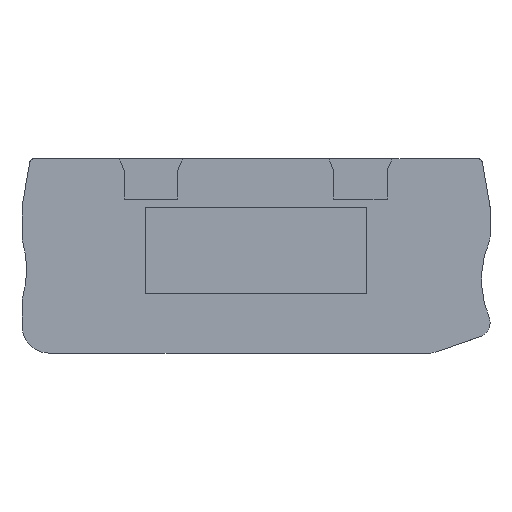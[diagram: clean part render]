
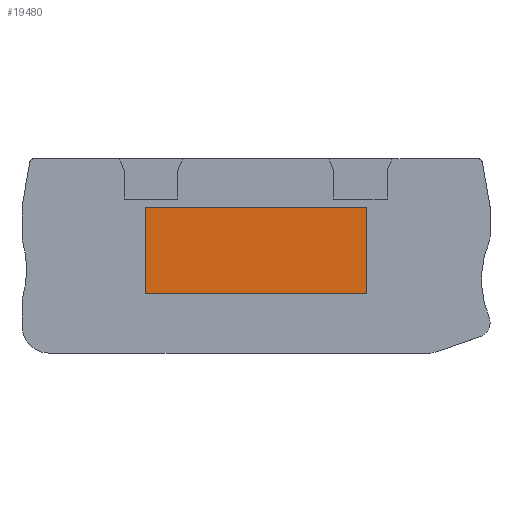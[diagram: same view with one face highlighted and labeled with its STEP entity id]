
A CAD part, top view. The second image highlights one B-rep face of the part: STEP entity #19480.
In plain terms, the highlighted planar face has unit normal (0, 0, 1).
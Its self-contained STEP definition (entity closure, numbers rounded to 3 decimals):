
#19090=CARTESIAN_POINT('',(10.314,-23.675,55.27));
#19100=DIRECTION('',(0.,0.,1.));
#19110=DIRECTION('',(1.,0.,0.));
#19120=AXIS2_PLACEMENT_3D('',#19090,#19100,#19110);
#19130=PLANE('',#19120);
#19140=CARTESIAN_POINT('',(-3.84,-12.13,55.27));
#19150=DIRECTION('',(0.,1.,0.));
#19160=VECTOR('',#19150,1.);
#19170=LINE('',#19140,#19160);
#19180=CARTESIAN_POINT('',(-3.84,-29.35,55.27));
#19190=VERTEX_POINT('',#19180);
#19200=CARTESIAN_POINT('',(-3.84,-16.35,55.27));
#19210=VERTEX_POINT('',#19200);
#19220=EDGE_CURVE('',#19190,#19210,#19170,.T.);
#19230=ORIENTED_EDGE('',*,*,#19220,.F.);
#19240=CARTESIAN_POINT('',(11.446,-16.35,55.27));
#19250=DIRECTION('',(1.,0.,0.));
#19260=VECTOR('',#19250,1.);
#19270=LINE('',#19240,#19260);
#19280=CARTESIAN_POINT('',(29.36,-16.35,55.27));
#19290=VERTEX_POINT('',#19280);
#19300=EDGE_CURVE('',#19210,#19290,#19270,.T.);
#19310=ORIENTED_EDGE('',*,*,#19300,.F.);
#19320=CARTESIAN_POINT('',(29.36,-12.13,55.27));
#19330=DIRECTION('',(0.,-1.,0.));
#19340=VECTOR('',#19330,1.);
#19350=LINE('',#19320,#19340);
#19360=CARTESIAN_POINT('',(29.36,-29.35,55.27));
#19370=VERTEX_POINT('',#19360);
#19380=EDGE_CURVE('',#19290,#19370,#19350,.T.);
#19390=ORIENTED_EDGE('',*,*,#19380,.F.);
#19400=CARTESIAN_POINT('',(11.446,-29.35,55.27));
#19410=DIRECTION('',(-1.,0.,0.));
#19420=VECTOR('',#19410,1.);
#19430=LINE('',#19400,#19420);
#19440=EDGE_CURVE('',#19370,#19190,#19430,.T.);
#19450=ORIENTED_EDGE('',*,*,#19440,.F.);
#19460=EDGE_LOOP('',(#19450,#19390,#19310,#19230));
#19470=FACE_OUTER_BOUND('',#19460,.T.);
#19480=ADVANCED_FACE('',(#19470),#19130,.T.);
